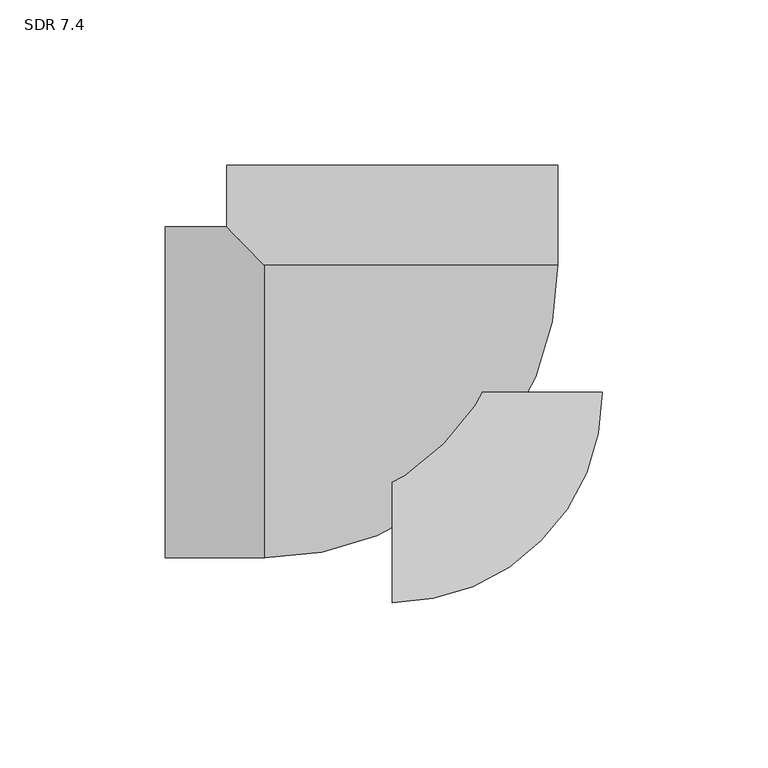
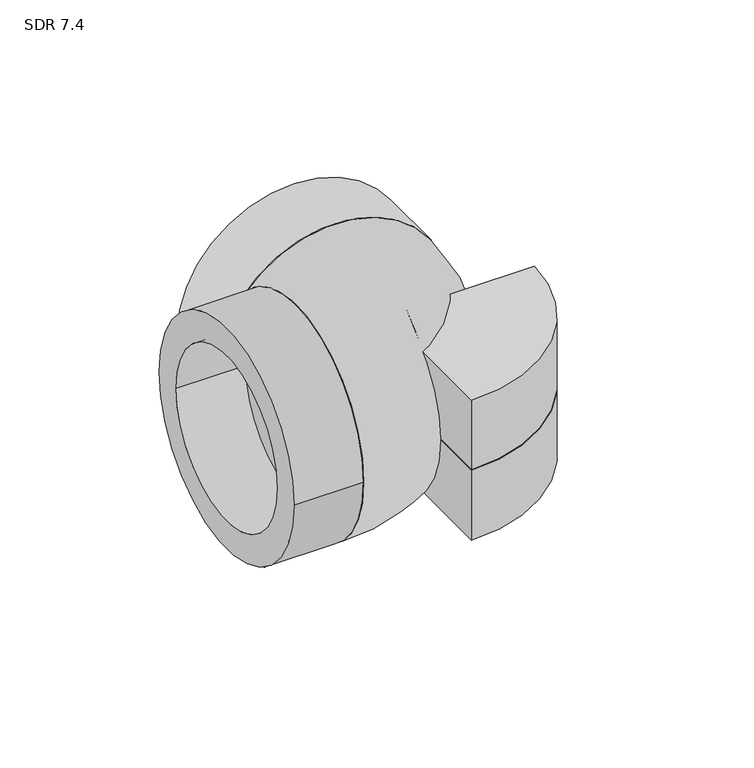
"""IFC4 building model written with IfcOpenShell, lengths in millimetres: pipe fitting geometry, Aquatherm - Elbow Socket : SDR 7.4."""

from ifc_helpers import new_model, si_unit, point, frame, origin, origin_with_axes, origin_2d, place, context, project, spatial, polyline, circle_curve, ellipse_curve, trimmed, segment, composite_curve, outline, extrude, source, transform, mapped, element, save
from ifc_brep_helpers import plane_surface, revolved_surface, advanced_brep


def sdr_7_4_eabe159a(model_context):
    return source(origin(), model_context, "Body", "SolidModel", [
        extrude(outline(composite_curve([segment(polyline([(0.0, -63.5), (0.0, 0.0), (63.5, 0.0)]), True, "CONTINUOUS"), segment(trimmed(circle_curve(origin_2d(), 63.5), [point((63.5, 0.0))], [point((0.0, -63.5))], False, "CARTESIAN"), True, "CONTINUOUS")], self_intersect=False)), frame((0.0, 0.0, -31.75), z_axis=(0.0, 0.0, 1.0), x_axis=(1.0, 0.0, 0.0)), (0.0, 0.0, 1.0), 31.75),
        extrude(outline(composite_curve([segment(trimmed(circle_curve(origin_2d(), 63.5), [point((63.5, 0.0))], [point((0.0, -63.5))], False, "CARTESIAN"), True, "CONTINUOUS"), segment(polyline([(0.0, -63.5), (0.0, 0.0), (63.5, 0.0)]), True, "CONTINUOUS")], self_intersect=False)), origin_with_axes(), (0.0, 0.0, 1.0), 31.75),
        extrude(outline(composite_curve([segment(trimmed(circle_curve(origin_2d(), 50.038), [point((0.0, 50.038))], [point((0.0, -50.038))], False, "CARTESIAN"), True, "CONTINUOUS"), segment(trimmed(circle_curve(origin_2d(), 50.038), [point((0.0, -50.038))], [point((0.0, 50.038))], False, "CARTESIAN"), True, "CONTINUOUS")], self_intersect=False), holes=[composite_curve([segment(trimmed(circle_curve(origin_2d(), 37.465), [point((0.0, 37.465))], [point((0.0, -37.465))], True, "CARTESIAN"), True, "CONTINUOUS"), segment(trimmed(circle_curve(origin_2d(), 37.465), [point((0.0, -37.465))], [point((0.0, 37.465))], True, "CARTESIAN"), True, "CONTINUOUS")], self_intersect=False)]), frame((0.0, 38.608, 0.0), z_axis=(0.0, 1.0, 0.0), x_axis=(0.0, 0.0, 1.0)), (0.0, 0.0, 1.0), 29.972),
        advanced_brep(
        [(-38.608, 38.608, -31.8311762), (-38.608, 38.608, 31.8311762), (-38.608, -27.0580556, 0.0), (-38.608, 27.0580556, 0.0), (27.0580556, 38.608, 0.0), (-27.0580556, 38.608, 0.0)],
        [
            (0, 1, circle_curve(frame((-38.608, 0.0, 0.0), z_axis=(-1.0, 0.0, 0.0), x_axis=(0.0, 1.0, 0.0)), 50.038)),
            (1, 0),
            (2, 3, circle_curve(frame((-38.608, 0.0, 0.0), z_axis=(1.0, 0.0, 0.0), x_axis=(0.0, 1.0, 0.0)), 27.0580556)),
            (3, 2, circle_curve(frame((-38.608, 0.0, 0.0), z_axis=(1.0, 0.0, 0.0), x_axis=(0.0, 1.0, 0.0)), 27.0580556)),
            (1, 0, circle_curve(frame((0.0, 38.608, 0.0), z_axis=(0.0, 1.0, 0.0), x_axis=(-1.0, 0.0, 0.0)), 50.038)),
            (4, 5, circle_curve(frame((0.0, 38.608, 0.0), z_axis=(0.0, -1.0, 0.0), x_axis=(-1.0, 0.0, 0.0)), 27.0580556)),
            (5, 4, circle_curve(frame((0.0, 38.608, 0.0), z_axis=(0.0, -1.0, 0.0), x_axis=(-1.0, 0.0, 0.0)), 27.0580556)),
            (5, 3, circle_curve(frame((-38.608, 38.608, 0.0), z_axis=(0.0, 0.0, -1.0), x_axis=(0.0, -1.0, 0.0)), 11.5499444)),
            (2, 4, circle_curve(frame((-38.608, 38.608, 0.0), z_axis=(0.0, 0.0, 1.0), x_axis=(0.0, -1.0, 0.0)), 65.6660556)),
        ],
        [
            plane_surface(frame((-38.608, 38.608, 88.9811762), z_axis=(-1.0, 0.0, 0.0), x_axis=(0.0, -1.0, 0.0))),
            plane_surface(frame((-38.608, 38.608, 88.9811762), z_axis=(0.0, 1.0, 0.0), x_axis=(1.0, 0.0, 0.0))),
            revolved_surface(trimmed(ellipse_curve(frame((-38.608, 0.0, 0.0), z_axis=(1.0, 0.0, 0.0), x_axis=(0.0, 1.0, 0.0)), 50.038, 50.038), [point((-38.608, 38.608, 31.8311762))], [point((-38.608, 38.608, -31.8311762))], True, "CARTESIAN"), (-38.608, 38.608, 88.9811762), (0.0, 0.0, -1.0)),
            revolved_surface(trimmed(ellipse_curve(frame((-38.608, 0.0, 0.0), z_axis=(-1.0, 0.0, 0.0), x_axis=(0.0, 1.0, 0.0)), 27.0580556, 27.0580556), [point((-38.608, 27.0580556, 0.0))], [point((-38.608, -27.0580556, 0.0))], True, "CARTESIAN"), (-38.608, 38.608, 88.9811762), (0.0, 0.0, -1.0)),
            revolved_surface(trimmed(ellipse_curve(frame((-38.608, 0.0, 0.0), z_axis=(-1.0, 0.0, 0.0), x_axis=(0.0, 1.0, 0.0)), 27.0580556, 27.0580556), [point((-38.608, -27.0580556, 0.0))], [point((-38.608, 27.0580556, 0.0))], True, "CARTESIAN"), (-38.608, 38.608, 88.9811762), (0.0, 0.0, -1.0)),
        ],
        [
            (0, [[1, 2], [3, 4]]),
            (1, [[5, -2], [6, 7]]),
            (2, [[-1, -5]]),
            (3, [[8, -3, 9, -7]]),
            (4, [[-9, -4, -8, -6]]),
        ],
    ),
        extrude(outline(composite_curve([segment(trimmed(circle_curve(origin_2d(), 50.038), [point((50.038, 0.0))], [point((-50.038, 0.0))], False, "CARTESIAN"), True, "CONTINUOUS"), segment(trimmed(circle_curve(origin_2d(), 50.038), [point((-50.038, 0.0))], [point((50.038, 0.0))], False, "CARTESIAN"), True, "CONTINUOUS")], self_intersect=False), holes=[composite_curve([segment(trimmed(circle_curve(origin_2d(), 37.465), [point((37.465, 0.0))], [point((-37.465, 0.0))], True, "CARTESIAN"), True, "CONTINUOUS"), segment(trimmed(circle_curve(origin_2d(), 37.465), [point((-37.465, 0.0))], [point((37.465, 0.0))], True, "CARTESIAN"), True, "CONTINUOUS")], self_intersect=False)]), frame((-68.58, 0.0, 0.0), z_axis=(1.0, 0.0, 0.0), x_axis=(0.0, 1.0, 0.0)), (0.0, 0.0, 1.0), 29.972),
    ])


if __name__ == "__main__":
    model = new_model("IFC4")
    model_context = context("Model", 3, world=origin())
    ifc_project = project(units=[si_unit("LENGTHUNIT", "METRE", prefix="MILLI")], contexts=[model_context])
    site = spatial("IfcSite", under=ifc_project)
    building = spatial("IfcBuilding", under=site)
    placement = place(None, origin())
    sdr_7_4_shape = sdr_7_4_eabe159a(model_context)
    element("IfcPipeFitting", 1, ObjectType="Aquatherm - Elbow Socket : SDR 7.4", at=placement, inside=building, context=model_context, shape_type="MappedRepresentation", body=[
        mapped(sdr_7_4_shape, transform((0.0, 0.0, 0.0), x_axis=(1.0, 0.0, 0.0), y_axis=(0.0, 1.0, 0.0), z_axis=(0.0, 0.0, 1.0))),
    ])
    save(model, "model.ifc")
